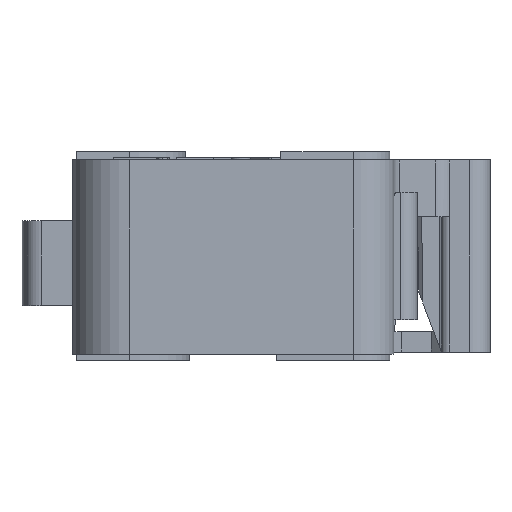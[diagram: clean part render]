
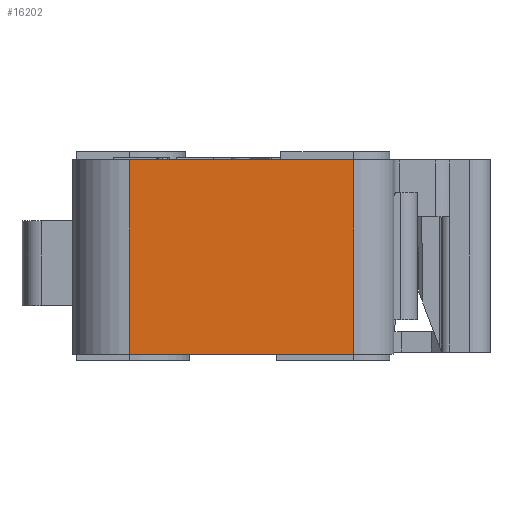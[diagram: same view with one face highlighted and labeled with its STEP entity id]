
A CAD part, left-side view. The second image highlights one B-rep face of the part: STEP entity #16202.
In plain terms, the highlighted planar face has unit normal (-1, 0, 0).
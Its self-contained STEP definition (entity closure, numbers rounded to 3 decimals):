
#2269=DIRECTION('',(0.,-1.,0.));
#2270=VECTOR('',#2269,11.1);
#2271=CARTESIAN_POINT('',(-27.322,8.207,
-4.7));
#2272=LINE('',#2271,#2270);
#2443=DIRECTION('',(0.,0.,-1.));
#2444=VECTOR('',#2443,9.6);
#2445=CARTESIAN_POINT('',(-27.322,8.207,4.9));
#2446=LINE('',#2445,#2444);
#2447=DIRECTION('',(0.,-1.,0.));
#2448=VECTOR('',#2447,11.1);
#2449=CARTESIAN_POINT('',(-27.322,8.207,4.9));
#2450=LINE('',#2449,#2448);
#2451=DIRECTION('',(0.,0.,1.));
#2452=VECTOR('',#2451,9.6);
#2453=CARTESIAN_POINT('',(-27.322,-2.893,
-4.7));
#2454=LINE('',#2453,#2452);
#10719=CARTESIAN_POINT('',(-27.322,-2.893,
4.9));
#10720=VERTEX_POINT('',#10719);
#10721=CARTESIAN_POINT('',(-27.322,8.207,
4.9));
#10722=VERTEX_POINT('',#10721);
#11571=CARTESIAN_POINT('',(-27.322,8.207,
-4.7));
#11572=VERTEX_POINT('',#11571);
#11573=CARTESIAN_POINT('',(-27.322,-2.893,
-4.7));
#11574=VERTEX_POINT('',#11573);
#16190=CARTESIAN_POINT('',(-27.322,11.007,
-4.7));
#16191=DIRECTION('',(-1.,0.,0.));
#16192=DIRECTION('',(0.,-1.,0.));
#16193=AXIS2_PLACEMENT_3D('',#16190,#16191,#16192);
#16194=PLANE('',#16193);
#16195=ORIENTED_EDGE('',*,*,#16184,.F.);
#16196=ORIENTED_EDGE('',*,*,#14327,.T.);
#16198=ORIENTED_EDGE('',*,*,#16197,.F.);
#16199=ORIENTED_EDGE('',*,*,#15994,.F.);
#16200=EDGE_LOOP('',(#16195,#16196,#16198,#16199));
#16201=FACE_OUTER_BOUND('',#16200,.F.);
#16202=ADVANCED_FACE('',(#16201),#16194,.T.);
#14327=EDGE_CURVE('',#10722,#10720,#2450,.T.);
#15994=EDGE_CURVE('',#11572,#11574,#2272,.T.);
#16184=EDGE_CURVE('',#10722,#11572,#2446,.T.);
#16197=EDGE_CURVE('',#11574,#10720,#2454,.T.);
